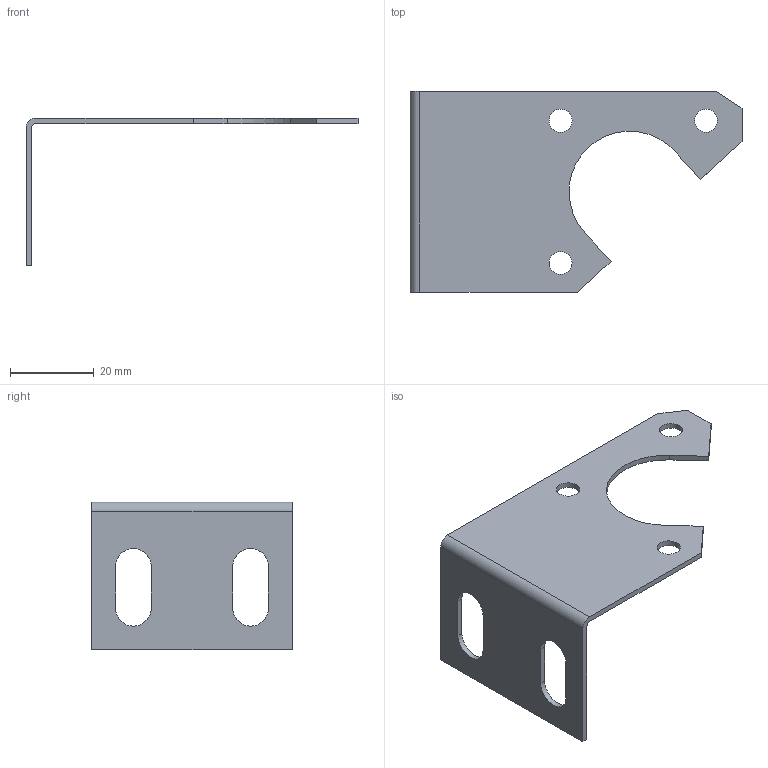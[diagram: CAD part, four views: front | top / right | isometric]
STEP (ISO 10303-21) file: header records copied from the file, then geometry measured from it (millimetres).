
FILE_DESCRIPTION(/* description */ (''),/* implementation_level */ '2;1');
FILE_NAME(/* name */ 'B-BW00-53.step',/* time_stamp */ '2024-07-10T15:08:31+02:00',/* author */ (''),/* organization */ (''),/* preprocessor_version */ 'ST-DEVELOPER v20',/* originating_system */ 'Autodesk Translation Framework v13.14.0.145',/* authorisation */ '');
FILE_SCHEMA (('AUTOMOTIVE_DESIGN { 1 0 10303 214 3 1 1 }'));
Length unit declared in the file: millimetre
Products named in the file (1): BW00-52
Bounding box: 79.35 x 48 x 35.35 mm (x, y, z)
Volume: 5038.4 mm3; surface area: 8107.9 mm2
Topology: 1 solids, 1 shells, 27 faces, 75 edges, 50 vertices
Faces by surface type: plane 17, cylinder 10
Full cylindrical faces by diameter (mm): 5.5 x3
Entity records: 929 total; most frequent: CARTESIAN_POINT 153, DIRECTION 151, ORIENTED_EDGE 150, EDGE_CURVE 75, LINE 55, VECTOR 55, VERTEX_POINT 50, AXIS2_PLACEMENT_3D 48
